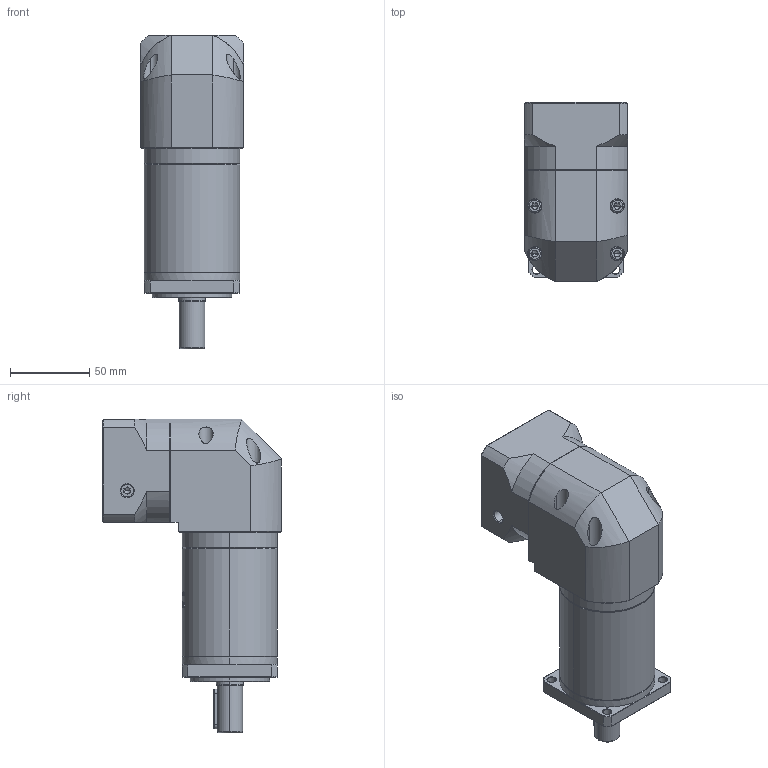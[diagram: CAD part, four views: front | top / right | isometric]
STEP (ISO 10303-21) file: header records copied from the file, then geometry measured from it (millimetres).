
FILE_DESCRIPTION (( 'STEP AP214' ), '1' );
FILE_NAME ('ZFR060-D16-L3-P2-14-60-75-M6.step', '2023-08-17T03:36:24', ( '' ), ( '' ), 'SwSTEP 2.0', 'SolidWorks 2016', '' );
FILE_SCHEMA (( 'AUTOMOTIVE_DESIGN' ));
Length unit declared in the file: millimetre
Products named in the file (1): ZFR060-D16-L3-P2-14-60-75-M6
Bounding box: 65 x 112.7 x 197.5 mm (x, y, z)
Volume: 651396.2 mm3; surface area: 86930.6 mm2
Topology: 5 solids, 6 shells, 1922 faces, 5153 edges, 3328 vertices
Faces by surface type: plane 847, cylinder 407, bspline 354, cone 290, torus 24
Entity records: 106626 total; most frequent: CARTESIAN_POINT 41558, ORIENTED_EDGE 10262, DIRECTION 7684, EDGE_CURVE 5131, VERTEX_POINT 3328, LINE 2614, VECTOR 2614, AXIS2_PLACEMENT_3D 2535
